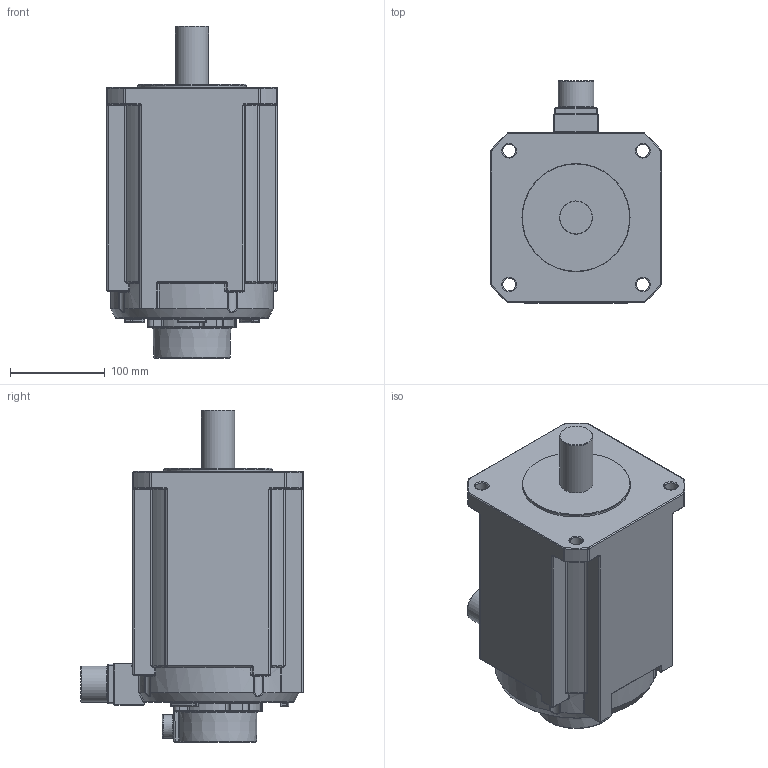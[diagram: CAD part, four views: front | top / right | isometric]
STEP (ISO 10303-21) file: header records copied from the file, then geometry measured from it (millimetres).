
FILE_DESCRIPTION(/* description */ (''),/* implementation_level */ '2;1');
FILE_NAME(/* name */ '01-180BAH48015.stp',/* time_stamp */ '2020-08-27T15:26:51+08:00',/* author */ (''),/* organization */ (''),/* preprocessor_version */ 'ST-DEVELOPER v16',/* originating_system */ 'SIEMENS PLM Software NX 10.0',/* authorisation */ '');
FILE_SCHEMA (('CONFIG_CONTROL_DESIGN'));
Length unit declared in the file: millimetre
Products named in the file (1): 01-180BAH48015
Bounding box: 180 x 235 x 351 mm (x, y, z)
Volume: 7158927.2 mm3; surface area: 256306 mm2
Topology: 1 solids, 1 shells, 607 faces, 1433 edges, 783 vertices
Faces by surface type: cylinder 235, torus 177, bspline 90, plane 75, sphere 22, cone 8
Full cylindrical faces by diameter (mm): 6.8 x2, 13.5 x4, 25 x1, 35 x1, 38 x1, 114.3 x1
Entity records: 19487 total; most frequent: CARTESIAN_POINT 6036, DIRECTION 3045, ORIENTED_EDGE 2694, EDGE_CURVE 1347, AXIS2_PLACEMENT_3D 1325, CIRCLE 797, VERTEX_POINT 780, EDGE_LOOP 651
